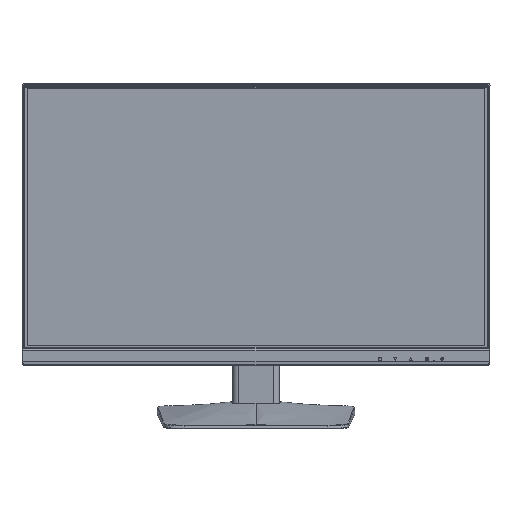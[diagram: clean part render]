
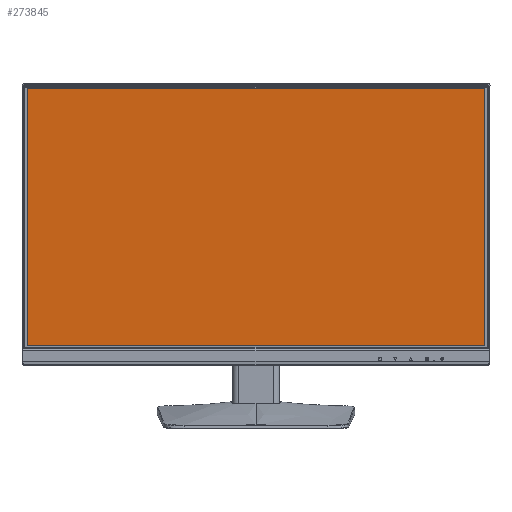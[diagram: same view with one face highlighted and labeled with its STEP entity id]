
A CAD part, top view. The second image highlights one B-rep face of the part: STEP entity #273845.
In plain terms, the highlighted planar face has unit normal (0, -0.087, 0.996).
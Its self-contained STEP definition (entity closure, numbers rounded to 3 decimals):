
#2483 = VECTOR ( 'NONE', #242688, 1000. ) ;
#7878 = FACE_OUTER_BOUND ( 'NONE', #398706, .T. ) ;
#44789 = CARTESIAN_POINT ( 'NONE',  ( 0., -7.697, 87.978 ) ) ;
#59967 = ORIENTED_EDGE ( 'NONE', *, *, #77667, .T. ) ;
#60644 = EDGE_CURVE ( 'NONE', #385440, #283243, #453589, .T. ) ;
#68987 = CARTESIAN_POINT ( 'NONE',  ( -263.52, 143.418, 101.199 ) ) ;
#72245 = CARTESIAN_POINT ( 'NONE',  ( 263.52, -151.914, 75.361 ) ) ;
#77667 = EDGE_CURVE ( 'NONE', #283243, #176411, #324847, .T. ) ;
#79509 = DIRECTION ( 'NONE',  ( 0., -0.087, 0.996 ) ) ;
#90383 = LINE ( 'NONE', #250983, #157596 ) ;
#98749 = CARTESIAN_POINT ( 'NONE',  ( -263.52, 143.418, 101.199 ) ) ;
#113558 = VERTEX_POINT ( 'NONE', #72245 ) ;
#151273 = DIRECTION ( 'NONE',  ( 0., -0.996, -0.087 ) ) ;
#156238 = ORIENTED_EDGE ( 'NONE', *, *, #429145, .T. ) ;
#157596 = VECTOR ( 'NONE', #285784, 1000. ) ;
#176411 = VERTEX_POINT ( 'NONE', #234906 ) ;
#183650 = DIRECTION ( 'NONE',  ( 0., -0.996, -0.087 ) ) ;
#200216 = DIRECTION ( 'NONE',  ( 1., 0., 0. ) ) ;
#200801 = AXIS2_PLACEMENT_3D ( 'NONE', #44789, #79509, #151273 ) ;
#204788 = CARTESIAN_POINT ( 'NONE',  ( -263.52, -151.914, 75.361 ) ) ;
#234906 = CARTESIAN_POINT ( 'NONE',  ( -263.52, -151.914, 75.361 ) ) ;
#242688 = DIRECTION ( 'NONE',  ( -1., 0., 0. ) ) ;
#250983 = CARTESIAN_POINT ( 'NONE',  ( 263.52, 143.418, 101.199 ) ) ;
#266699 = ORIENTED_EDGE ( 'NONE', *, *, #60644, .T. ) ;
#273845 = ADVANCED_FACE ( 'NONE', ( #7878 ), #362015, .T. ) ;
#274124 = LINE ( 'NONE', #204788, #406737 ) ;
#283243 = VERTEX_POINT ( 'NONE', #98749 ) ;
#285546 = CARTESIAN_POINT ( 'NONE',  ( -263.52, 143.418, 101.199 ) ) ;
#285784 = DIRECTION ( 'NONE',  ( 0., 0.996, 0.087 ) ) ;
#324847 = LINE ( 'NONE', #285546, #423019 ) ;
#362015 = PLANE ( 'NONE',  #200801 ) ;
#385440 = VERTEX_POINT ( 'NONE', #448950 ) ;
#398706 = EDGE_LOOP ( 'NONE', ( #59967, #156238, #405360, #266699 ) ) ;
#405360 = ORIENTED_EDGE ( 'NONE', *, *, #449256, .T. ) ;
#406737 = VECTOR ( 'NONE', #200216, 1000. ) ;
#423019 = VECTOR ( 'NONE', #183650, 1000. ) ;
#429145 = EDGE_CURVE ( 'NONE', #176411, #113558, #274124, .T. ) ;
#448950 = CARTESIAN_POINT ( 'NONE',  ( 263.52, 143.418, 101.199 ) ) ;
#449256 = EDGE_CURVE ( 'NONE', #113558, #385440, #90383, .T. ) ;
#453589 = LINE ( 'NONE', #68987, #2483 ) ;
